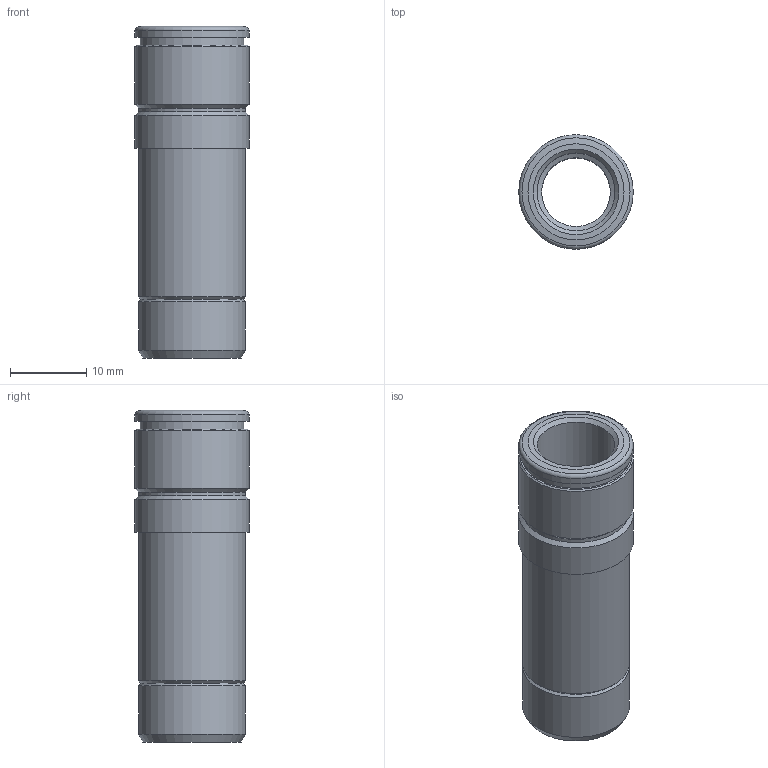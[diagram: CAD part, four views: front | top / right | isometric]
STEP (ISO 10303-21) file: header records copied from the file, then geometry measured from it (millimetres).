
FILE_DESCRIPTION(/* description */ (''),/* implementation_level */ '2;1');
FILE_NAME(/* name */ '200815_IPSO_08_14_10_03.07.17',/* time_stamp */ '2017-07-03T11:22:31+02:00',/* author */ (''),/* organization */ (''),/* preprocessor_version */ 'ST-DEVELOPER v16.5',/* originating_system */ 'HiCAD 2016 2102.2 Build 618',/* authorisation */ '');
FILE_SCHEMA (('AUTOMOTIVE_DESIGN { 1 0 10303 214 1 1 1 1 }'));
Length unit declared in the file: millimetre
Products named in the file (3): Root; DR10-N; R200815-N
Assembly tree (2 placements, depth 2):
  Root
    DR10-N
    R200815-N
Bounding box: 15 x 15 x 43.5 mm (x, y, z)
Volume: 3583.9 mm3; surface area: 4219 mm2
Topology: 2 solids, 2 shells, 35 faces, 66 edges, 38 vertices
Faces by surface type: cone 14, cylinder 13, plane 7, torus 1
Full cylindrical faces by diameter (mm): 9 x1, 10.2 x2, 12.3 x1, 13 x1, 13.6 x1, 13.7 x1, 14 x3, 15 x3
Entity records: 1122 total; most frequent: DIRECTION 148, CARTESIAN_POINT 109, AXIS2_PLACEMENT_3D 74, PRESENTATION_STYLE_ASSIGNMENT 72, COLOUR_RGB 72, DRAUGHTING_PRE_DEFINED_CURVE_FONT 70, CURVE_STYLE 70, OVER_RIDING_STYLED_ITEM 70
